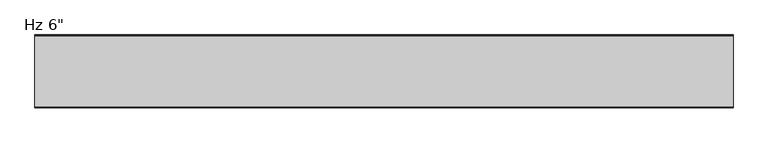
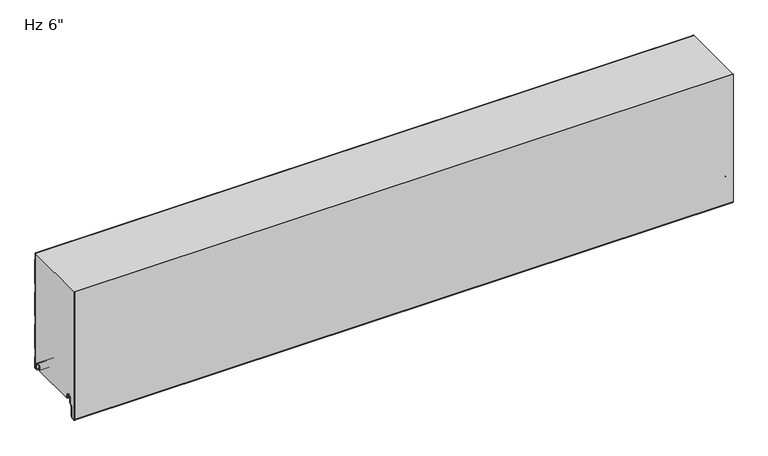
"""IFC4 building model written with IfcOpenShell, lengths in millimetres: plate geometry."""

from ifc_helpers import new_model, si_unit, point, frame, frame_2d, origin, place, context, project, spatial, polyline, circle_curve, trimmed, segment, composite_curve, outline, extrude, source, transform, mapped, element, save
from ifc_brep_helpers import plane_surface, cylinder_surface, revolved_surface, advanced_brep


def plate_a466234f(model_context):
    return source(origin(), model_context, "Body", "SolidModel", [
        advanced_brep(
        [(-730.0, -17.0015159, 2.0313088), (-730.0, -18.0015191, 1.0313116), (-730.0, -19.0015105, 2.0313088), (-730.0, -19.0015105, 6.0315125), (-730.0, -18.0015159, 6.0315125), (-730.0, -18.0015159, 8.7237223), (-730.0, -14.7015202, 12.023718), (-730.0, -10.301529, 12.023718), (-730.0, -7.0015335, 8.7237225), (-730.0, -7.0015335, -1.6962564), (-730.0, -5.2315393, -3.4662506), (-730.0, -0.9999916, -3.4662506), (-730.0, -0.9999916, 21.034026), (-730.0, -2.2002307, 22.4196686), (-730.0, -2.2002307, 41.7948349), (-730.0, -1.0, 43.1804679), (-730.0, -1.0, 97.2338833), (-730.0, -2.2002307, 98.6195162), (-730.0, -2.2002307, 117.9946825), (-730.0, -1.0, 119.3803155), (-730.0, -1.0, 173.4337309), (-730.0, -2.2002307, 174.8193638), (-730.0, -2.2002307, 194.1945301), (-730.0, -1.0, 195.5801631), (-730.0, -1.0, 249.6335785), (-730.0, -2.2002307, 251.0192114), (-730.0, -2.2002307, 266.4), (-730.0, -1.2002307, 266.4), (-730.0, -1.2002307, 251.3920919), (-730.0, -0.3417885, 250.4010442), (-730.0, 0.0, 249.4844273), (-730.0, 0.0, 195.7293142), (-730.0, -0.3417885, 194.8126973), (-730.0, -1.2002307, 193.8216497), (-730.0, -1.2002307, 175.1922443), (-730.0, -0.3417885, 174.2011966), (-730.0, 0.0, 173.2845797), (-730.0, 0.0, 119.5294666), (-730.0, -0.3417885, 118.6128497), (-730.0, -1.2002307, 117.6218021), (-730.0, -1.2002307, 98.9923967), (-730.0, -0.3417885, 98.001349), (-730.0, 0.0, 97.0847321), (-730.0, 0.0, 43.329619), (-730.0, -0.3417885, 42.4130021), (-730.0, -1.2002307, 41.4219545), (-730.0, -1.2002307, 22.7925491), (-730.0, -0.3417885, 21.8015014), (-730.0, 0.0, 20.8847931), (-730.0, 8.4e-06, -3.0662545), (-730.0, -1.3999878, -4.4662506), (-730.0, -5.2315393, -4.4662506), (-730.0, -8.0015335, -1.6962564), (-730.0, -8.0015335, 8.7237225), (-730.0, -10.301529, 11.023718), (-730.0, -14.7015202, 11.023718), (-730.0, -17.0015159, 8.7237223), (730.0, -17.0015159, 2.0313088), (730.0, -17.0015159, 8.7237223), (730.0, -14.7015202, 11.023718), (730.0, -10.301529, 11.023718), (730.0, -8.0015335, 8.7237225), (730.0, -8.0015335, -1.6962564), (730.0, -5.2315393, -4.4662506), (730.0, -1.3999878, -4.4662506), (730.0, 8.4e-06, -3.0662545), (730.0, 8.4e-06, 20.8848845), (730.0, -0.3417885, 21.8015014), (730.0, -1.2002307, 22.7925491), (730.0, -1.2002307, 41.4219545), (730.0, -0.3417885, 42.4130021), (730.0, 0.0, 43.329619), (730.0, 0.0, 97.0847321), (730.0, -0.3417885, 98.001349), (730.0, -1.2002307, 98.9923967), (730.0, -1.2002307, 117.6218021), (730.0, -0.3417885, 118.6128497), (730.0, 0.0, 119.5294666), (730.0, 0.0, 173.2845797), (730.0, -0.3417885, 174.2011966), (730.0, -1.2002307, 175.1922443), (730.0, -1.2002307, 193.8216497), (730.0, -0.3417885, 194.8126973), (730.0, 0.0, 195.7293142), (730.0, 0.0, 249.4844273), (730.0, -0.3417885, 250.4010442), (730.0, -1.2002307, 251.3920919), (730.0, -1.2002307, 266.4), (730.0, -2.2002307, 266.4), (730.0, -2.2002307, 251.0192114), (730.0, -1.0, 249.6335785), (730.0, -1.0, 195.5801631), (730.0, -2.2002307, 194.1945301), (730.0, -2.2002307, 174.8193638), (730.0, -1.0, 173.4337309), (730.0, -1.0, 119.3803155), (730.0, -2.2002307, 117.9946825), (730.0, -2.2002307, 98.6195162), (730.0, -1.0, 97.2338833), (730.0, -1.0, 43.1804679), (730.0, -2.2002307, 41.7948349), (730.0, -2.2002307, 22.4196686), (730.0, -0.9999916, 21.034026), (730.0, -0.9999916, -3.4662506), (730.0, -5.2315393, -3.4662506), (730.0, -7.0015335, -1.6962564), (730.0, -7.0015335, 8.7237225), (730.0, -10.301529, 12.023718), (730.0, -14.7015202, 12.023718), (730.0, -18.0015159, 8.7237223), (730.0, -18.0015159, 6.0315125), (730.0, -19.0015105, 6.0315125), (730.0, -19.0015105, 2.0313088), (730.0, -18.0015192, 1.0313116)],
        [
            (0, 1, circle_curve(frame((-730.0, -18.0015132, 2.0313088), z_axis=(-1.0, 0.0, 0.0), x_axis=(0.0, 0.0, 1.0)), 0.9999973)),
            (1, 2, circle_curve(frame((-730.0, -18.0015133, 2.0313088), z_axis=(-1.0, 0.0, 0.0), x_axis=(0.0, 0.0, 1.0)), 0.9999972)),
            (2, 3),
            (3, 4),
            (4, 5),
            (5, 6, circle_curve(frame((-730.0, -14.7015202, 8.7237223), z_axis=(-1.0, 0.0, 0.0), x_axis=(0.0, 0.0, 1.0)), 3.2999957)),
            (6, 7),
            (7, 8, circle_curve(frame((-730.0, -10.301529, 8.7237225), z_axis=(-1.0, 0.0, 0.0), x_axis=(0.0, 0.0, 1.0)), 3.2999955)),
            (8, 9),
            (9, 10, circle_curve(frame((-730.0, -5.2315393, -1.6962564), z_axis=(1.0, 0.0, 0.0), x_axis=(0.0, 0.0, 1.0)), 1.7699942)),
            (10, 11),
            (11, 12),
            (12, 13),
            (13, 14),
            (14, 15),
            (15, 16),
            (16, 17),
            (17, 18),
            (18, 19),
            (19, 20),
            (20, 21),
            (21, 22),
            (22, 23),
            (23, 24),
            (24, 25),
            (25, 26),
            (26, 27),
            (27, 28),
            (28, 29),
            (29, 30, circle_curve(frame((-730.0, -1.3999972, 249.4844273), z_axis=(-1.0, 0.0, 0.0), x_axis=(0.0, 0.0, 1.0)), 1.3999972)),
            (30, 31),
            (31, 32, circle_curve(frame((-730.0, -1.3999972, 195.7293142), z_axis=(-1.0, 0.0, 0.0), x_axis=(0.0, 0.0, 1.0)), 1.3999972)),
            (32, 33),
            (33, 34),
            (34, 35),
            (35, 36, circle_curve(frame((-730.0, -1.3999972, 173.2845797), z_axis=(-1.0, 0.0, 0.0), x_axis=(0.0, 0.0, 1.0)), 1.3999972)),
            (36, 37),
            (37, 38, circle_curve(frame((-730.0, -1.3999972, 119.5294666), z_axis=(-1.0, 0.0, 0.0), x_axis=(0.0, 0.0, 1.0)), 1.3999972)),
            (38, 39),
            (39, 40),
            (40, 41),
            (41, 42, circle_curve(frame((-730.0, -1.3999972, 97.0847321), z_axis=(-1.0, 0.0, 0.0), x_axis=(0.0, 0.0, 1.0)), 1.3999972)),
            (42, 43),
            (43, 44, circle_curve(frame((-730.0, -1.3999972, 43.329619), z_axis=(-1.0, 0.0, 0.0), x_axis=(0.0, 0.0, 1.0)), 1.3999972)),
            (44, 45),
            (45, 46),
            (46, 47),
            (47, 48, circle_curve(frame((-730.0, -1.3999972, 20.8848845), z_axis=(-1.0, 0.0, 0.0), x_axis=(0.0, 0.0, 1.0)), 1.3999972)),
            (48, 49),
            (49, 50, circle_curve(frame((-730.0, -1.3999878, -3.0662545), z_axis=(-1.0, 0.0, 0.0), x_axis=(0.0, 0.0, 1.0)), 1.3999962)),
            (50, 51),
            (51, 52, circle_curve(frame((-730.0, -5.2315393, -1.6962564), z_axis=(-1.0, 0.0, 0.0), x_axis=(0.0, 0.0, 1.0)), 2.7699942)),
            (52, 53),
            (53, 54, circle_curve(frame((-730.0, -10.301529, 8.7237225), z_axis=(1.0, 0.0, 0.0), x_axis=(0.0, 0.0, 1.0)), 2.2999955)),
            (54, 55),
            (55, 56, circle_curve(frame((-730.0, -14.7015202, 8.7237223), z_axis=(1.0, 0.0, 0.0), x_axis=(0.0, 0.0, 1.0)), 2.2999957)),
            (56, 0),
            (57, 58),
            (58, 59, circle_curve(frame((730.0, -14.7015202, 8.7237223), z_axis=(-1.0, 0.0, 0.0), x_axis=(0.0, 0.0, 1.0)), 2.2999957)),
            (59, 60),
            (60, 61, circle_curve(frame((730.0, -10.301529, 8.7237225), z_axis=(-1.0, 0.0, 0.0), x_axis=(0.0, 0.0, 1.0)), 2.2999955)),
            (61, 62),
            (62, 63, circle_curve(frame((730.0, -5.2315393, -1.6962564), z_axis=(1.0, 0.0, 0.0), x_axis=(0.0, 0.0, 1.0)), 2.7699942)),
            (63, 64),
            (64, 65, circle_curve(frame((730.0, -1.3999878, -3.0662545), z_axis=(1.0, 0.0, 0.0), x_axis=(0.0, 0.0, 1.0)), 1.3999962)),
            (65, 66),
            (66, 67, circle_curve(frame((730.0, -1.3999972, 20.8848845), z_axis=(1.0, 0.0, 0.0), x_axis=(0.0, 0.0, 1.0)), 1.3999972)),
            (67, 68),
            (68, 69),
            (69, 70),
            (70, 71, circle_curve(frame((730.0, -1.3999972, 43.329619), z_axis=(1.0, 0.0, 0.0), x_axis=(0.0, 0.0, 1.0)), 1.3999972)),
            (71, 72),
            (72, 73, circle_curve(frame((730.0, -1.3999972, 97.0847321), z_axis=(1.0, 0.0, 0.0), x_axis=(0.0, 0.0, 1.0)), 1.3999972)),
            (73, 74),
            (74, 75),
            (75, 76),
            (76, 77, circle_curve(frame((730.0, -1.3999972, 119.5294666), z_axis=(1.0, 0.0, 0.0), x_axis=(0.0, 0.0, 1.0)), 1.3999972)),
            (77, 78),
            (78, 79, circle_curve(frame((730.0, -1.3999972, 173.2845797), z_axis=(1.0, 0.0, 0.0), x_axis=(0.0, 0.0, 1.0)), 1.3999972)),
            (79, 80),
            (80, 81),
            (81, 82),
            (82, 83, circle_curve(frame((730.0, -1.3999972, 195.7293142), z_axis=(1.0, 0.0, 0.0), x_axis=(0.0, 0.0, 1.0)), 1.3999972)),
            (83, 84),
            (84, 85, circle_curve(frame((730.0, -1.3999972, 249.4844273), z_axis=(1.0, 0.0, 0.0), x_axis=(0.0, 0.0, 1.0)), 1.3999972)),
            (85, 86),
            (86, 87),
            (87, 88),
            (88, 89),
            (89, 90),
            (90, 91),
            (91, 92),
            (92, 93),
            (93, 94),
            (94, 95),
            (95, 96),
            (96, 97),
            (97, 98),
            (98, 99),
            (99, 100),
            (100, 101),
            (101, 102),
            (102, 103),
            (103, 104),
            (104, 105, circle_curve(frame((730.0, -5.2315393, -1.6962564), z_axis=(-1.0, 0.0, 0.0), x_axis=(0.0, 0.0, 1.0)), 1.7699942)),
            (105, 106),
            (106, 107, circle_curve(frame((730.0, -10.301529, 8.7237225), z_axis=(1.0, 0.0, 0.0), x_axis=(0.0, 0.0, 1.0)), 3.2999955)),
            (107, 108),
            (108, 109, circle_curve(frame((730.0, -14.7015202, 8.7237223), z_axis=(1.0, 0.0, 0.0), x_axis=(0.0, 0.0, 1.0)), 3.2999957)),
            (109, 110),
            (110, 111),
            (111, 112),
            (112, 113, circle_curve(frame((730.0, -18.0015133, 2.0313088), z_axis=(1.0, 0.0, 0.0), x_axis=(0.0, 0.0, 1.0)), 0.9999972)),
            (113, 57, circle_curve(frame((730.0, -18.0015132, 2.0313088), z_axis=(1.0, 0.0, 0.0), x_axis=(0.0, 0.0, 1.0)), 0.9999973)),
            (26, 88),
            (87, 27),
            (56, 58),
            (57, 0),
            (55, 59),
            (54, 60),
            (53, 61),
            (52, 62),
            (51, 63),
            (50, 64),
            (49, 65),
            (48, 66),
            (47, 67),
            (46, 68),
            (45, 69),
            (44, 70),
            (43, 71),
            (42, 72),
            (41, 73),
            (40, 74),
            (39, 75),
            (38, 76),
            (37, 77),
            (36, 78),
            (19, 95),
            (94, 20),
            (18, 96),
            (17, 97),
            (16, 98),
            (15, 99),
            (14, 100),
            (13, 101),
            (12, 102),
            (11, 103),
            (10, 104),
            (9, 105),
            (8, 106),
            (7, 107),
            (6, 108),
            (5, 109),
            (4, 110),
            (3, 111),
            (2, 112),
            (1, 113),
            (35, 79),
            (34, 80),
            (33, 81),
            (32, 82),
            (31, 83),
            (30, 84),
            (29, 85),
            (28, 86),
            (25, 89),
            (24, 90),
            (23, 91),
            (22, 92),
            (21, 93),
        ],
        [
            plane_surface(frame((-730.0, 0.0, 533.4), z_axis=(-1.0, 0.0, 0.0), x_axis=(0.0, 1.0, 0.0))),
            plane_surface(frame((730.0, 0.0, 533.4), z_axis=(1.0, 0.0, 0.0), x_axis=(0.0, 1.0, 0.0))),
            plane_surface(frame((730.0, 10.0, 266.4), z_axis=(0.0, 0.0, 1.0), x_axis=(-1.0, 0.0, 0.0))),
            plane_surface(frame((-730.0, -17.0015159, 2.0313088), z_axis=(0.0, 1.0, 0.0), x_axis=(1.0, 0.0, 0.0))),
            revolved_surface(polyline([(730.0, -14.7015202, 11.023718), (-730.0, -14.7015202, 11.023718)]), (-730.0, -14.7015202, 8.7237223), (1.0, 0.0, 0.0)),
            plane_surface(frame((-730.0, -14.7015202, 11.023718), z_axis=(0.0, 0.0, -1.0), x_axis=(1.0, 0.0, 0.0))),
            revolved_surface(polyline([(730.0, -10.301529, 11.023717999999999), (-730.0, -10.301529, 11.023717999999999)]), (-730.0, -10.301529, 8.7237225), (1.0, 0.0, 0.0)),
            plane_surface(frame((-730.0, -8.0015335, 8.7237225), z_axis=(0.0, -1.0, 0.0), x_axis=(1.0, 0.0, 0.0))),
            cylinder_surface(frame((-730.0, -5.2315393, -1.6962564), z_axis=(-1.0, 0.0, 0.0), x_axis=(0.0, 0.0, 1.0)), 2.7699942),
            plane_surface(frame((-730.0, -5.2315393, -4.4662506), z_axis=(0.0, 0.0, -1.0), x_axis=(1.0, 0.0, 0.0))),
            cylinder_surface(frame((-730.0, -1.3999878, -3.0662545), z_axis=(-1.0, 0.0, 0.0), x_axis=(0.0, 0.0, 1.0)), 1.3999962),
            plane_surface(frame((-730.0, 8.4e-06, -3.0662545), z_axis=(0.0, 1.0, 0.0), x_axis=(1.0, 0.0, 0.0))),
            cylinder_surface(frame((-730.0, -1.3999972, 20.8848845), z_axis=(-1.0, 0.0, 0.0), x_axis=(0.0, 0.0, 1.0)), 1.3999972),
            plane_surface(frame((-730.0, -0.3417885, 21.8015014), z_axis=(0.0, 0.755864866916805, 0.6547276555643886), x_axis=(1.0, 0.0, 0.0))),
            plane_surface(frame((-730.0, -1.2002307, 32.1072518), z_axis=(0.0, 1.0, 0.0), x_axis=(1.0, 0.0, 0.0))),
            plane_surface(frame((-730.0, -1.2002307, 41.4219545), z_axis=(0.0, 0.755864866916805, -0.6547276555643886), x_axis=(1.0, 0.0, 0.0))),
            cylinder_surface(frame((-730.0, -1.3999972, 43.329619), z_axis=(-1.0, 0.0, 0.0), x_axis=(0.0, 0.0, 1.0)), 1.3999972),
            plane_surface(frame((-730.0, 0.0, 43.329619), z_axis=(0.0, 1.0, 0.0), x_axis=(1.0, 0.0, 0.0))),
            cylinder_surface(frame((-730.0, -1.3999972, 97.0847321), z_axis=(-1.0, 0.0, 0.0), x_axis=(0.0, 0.0, 1.0)), 1.3999972),
            plane_surface(frame((-730.0, -0.3417885, 98.001349), z_axis=(0.0, 0.755864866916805, 0.6547276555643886), x_axis=(1.0, 0.0, 0.0))),
            plane_surface(frame((-730.0, -1.2002307, 108.3070994), z_axis=(0.0, 1.0, 0.0), x_axis=(1.0, 0.0, 0.0))),
            plane_surface(frame((-730.0, -1.2002307, 117.6218021), z_axis=(0.0, 0.755864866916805, -0.6547276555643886), x_axis=(1.0, 0.0, 0.0))),
            cylinder_surface(frame((-730.0, -1.3999972, 119.5294666), z_axis=(-1.0, 0.0, 0.0), x_axis=(0.0, 0.0, 1.0)), 1.3999972),
            plane_surface(frame((-730.0, 0.0, 119.5294666), z_axis=(0.0, 1.0, 0.0), x_axis=(1.0, 0.0, 0.0))),
            plane_surface(frame((-730.0, -1.0, 173.4337309), z_axis=(0.0, -1.0, 0.0), x_axis=(1.0, 0.0, 0.0))),
            plane_surface(frame((-730.0, -1.0, 119.3803155), z_axis=(0.0, -0.755864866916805, 0.6547276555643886), x_axis=(1.0, 0.0, 0.0))),
            plane_surface(frame((-730.0, -2.2002307, 117.9946825), z_axis=(0.0, -1.0, 0.0), x_axis=(1.0, 0.0, 0.0))),
            plane_surface(frame((-730.0, -2.2002307, 98.6195162), z_axis=(0.0, -0.755864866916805, -0.6547276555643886), x_axis=(1.0, 0.0, 0.0))),
            plane_surface(frame((-730.0, -1.0, 97.2338833), z_axis=(0.0, -1.0, 0.0), x_axis=(1.0, 0.0, 0.0))),
            plane_surface(frame((-730.0, -1.0, 43.1804679), z_axis=(0.0, -0.755864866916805, 0.6547276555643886), x_axis=(1.0, 0.0, 0.0))),
            plane_surface(frame((-730.0, -2.2002307, 41.7948349), z_axis=(0.0, -1.0, 0.0), x_axis=(1.0, 0.0, 0.0))),
            plane_surface(frame((-730.0, -2.2002307, 22.4196686), z_axis=(0.0, -0.755864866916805, -0.6547276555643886), x_axis=(1.0, 0.0, 0.0))),
            plane_surface(frame((-730.0, -0.9999916, 21.034026), z_axis=(0.0, -1.0, 0.0), x_axis=(1.0, 0.0, 0.0))),
            plane_surface(frame((-730.0, -0.9999916, -3.4662506), z_axis=(0.0, 0.0, 1.0), x_axis=(1.0, 0.0, 0.0))),
            revolved_surface(polyline([(730.0, -5.2315393, 0.07373779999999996), (-730.0, -5.2315393, 0.07373779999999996)]), (-730.0, -5.2315393, -1.6962564), (1.0, 0.0, 0.0)),
            plane_surface(frame((-730.0, -7.0015335, -1.6962564), z_axis=(0.0, 1.0, 0.0), x_axis=(1.0, 0.0, 0.0))),
            cylinder_surface(frame((-730.0, -10.301529, 8.7237225), z_axis=(-1.0, 0.0, 0.0), x_axis=(0.0, 0.0, 1.0)), 3.2999955),
            plane_surface(frame((-730.0, -10.301529, 12.023718), z_axis=(0.0, 0.0, 1.0), x_axis=(1.0, 0.0, 0.0))),
            cylinder_surface(frame((-730.0, -14.7015202, 8.7237223), z_axis=(-1.0, 0.0, 0.0), x_axis=(0.0, 0.0, 1.0)), 3.2999957),
            plane_surface(frame((-730.0, -18.0015159, 8.7237223), z_axis=(0.0, -1.0, 0.0), x_axis=(1.0, 0.0, 0.0))),
            plane_surface(frame((-730.0, -18.0015159, 6.0315125), z_axis=(0.0, 0.0, 1.0), x_axis=(1.0, 0.0, 0.0))),
            plane_surface(frame((-730.0, -19.0015105, 6.0315125), z_axis=(0.0, -1.0, 0.0), x_axis=(1.0, 0.0, 0.0))),
            cylinder_surface(frame((-730.0, -18.0015133, 2.0313088), z_axis=(-1.0, 0.0, 0.0), x_axis=(0.0, 0.0, 1.0)), 0.9999972),
            cylinder_surface(frame((-730.0, -18.0015132, 2.0313088), z_axis=(-1.0, 0.0, 0.0), x_axis=(0.0, 0.0, 1.0)), 0.9999973),
            cylinder_surface(frame((-730.0, -1.3999972, 173.2845797), z_axis=(-1.0, 0.0, 0.0), x_axis=(0.0, 0.0, 1.0)), 1.3999972),
            plane_surface(frame((-730.0, -0.3417885, 174.2011966), z_axis=(0.0, 0.755864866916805, 0.6547276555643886), x_axis=(1.0, 0.0, 0.0))),
            plane_surface(frame((-730.0, -1.2002307, 184.506947), z_axis=(0.0, 1.0, 0.0), x_axis=(1.0, 0.0, 0.0))),
            plane_surface(frame((-730.0, -1.2002307, 193.8216497), z_axis=(0.0, 0.755864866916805, -0.6547276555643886), x_axis=(1.0, 0.0, 0.0))),
            cylinder_surface(frame((-730.0, -1.3999972, 195.7293142), z_axis=(-1.0, 0.0, 0.0), x_axis=(0.0, 0.0, 1.0)), 1.3999972),
            plane_surface(frame((-730.0, 0.0, 195.7293142), z_axis=(0.0, 1.0, 0.0), x_axis=(1.0, 0.0, 0.0))),
            cylinder_surface(frame((-730.0, -1.3999972, 249.4844273), z_axis=(-1.0, 0.0, 0.0), x_axis=(0.0, 0.0, 1.0)), 1.3999972),
            plane_surface(frame((-730.0, -0.3417885, 250.4010442), z_axis=(0.0, 0.755864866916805, 0.6547276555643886), x_axis=(1.0, 0.0, 0.0))),
            plane_surface(frame((-730.0, -1.2002307, 260.7067946), z_axis=(0.0, 1.0, 0.0), x_axis=(1.0, 0.0, 0.0))),
            plane_surface(frame((-730.0, -2.2002307, 270.3943777), z_axis=(0.0, -1.0, 0.0), x_axis=(1.0, 0.0, 0.0))),
            plane_surface(frame((-730.0, -2.2002307, 251.0192114), z_axis=(0.0, -0.755864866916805, -0.6547276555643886), x_axis=(1.0, 0.0, 0.0))),
            plane_surface(frame((-730.0, -1.0, 249.6335785), z_axis=(0.0, -1.0, 0.0), x_axis=(1.0, 0.0, 0.0))),
            plane_surface(frame((-730.0, -1.0, 195.5801631), z_axis=(0.0, -0.755864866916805, 0.6547276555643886), x_axis=(1.0, 0.0, 0.0))),
            plane_surface(frame((-730.0, -2.2002307, 194.1945301), z_axis=(0.0, -1.0, 0.0), x_axis=(1.0, 0.0, 0.0))),
            plane_surface(frame((-730.0, -2.2002307, 174.8193638), z_axis=(0.0, -0.755864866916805, -0.6547276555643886), x_axis=(1.0, 0.0, 0.0))),
        ],
        [
            (0, [[1, 2, 3, 4, 5, 6, 7, 8, 9, 10, 11, 12, 13, 14, 15, 16, 17, 18, 19, 20, 21, 22, 23, 24, 25, 26, 27, 28, 29, 30, 31, 32, 33, 34, 35, 36, 37, 38, 39, 40, 41, 42, 43, 44, 45, 46, 47, 48, 49, 50, 51, 52, 53, 54, 55, 56, 57]]),
            (1, [[58, 59, 60, 61, 62, 63, 64, 65, 66, 67, 68, 69, 70, 71, 72, 73, 74, 75, 76, 77, 78, 79, 80, 81, 82, 83, 84, 85, 86, 87, 88, 89, 90, 91, 92, 93, 94, 95, 96, 97, 98, 99, 100, 101, 102, 103, 104, 105, 106, 107, 108, 109, 110, 111, 112, 113, 114]]),
            (2, [[115, -88, 116, -27]]),
            (3, [[117, -58, 118, -57]]),
            (4, [[119, -59, -117, -56]]),
            (5, [[120, -60, -119, -55]]),
            (6, [[121, -61, -120, -54]]),
            (7, [[122, -62, -121, -53]]),
            (8, [[123, -63, -122, -52]]),
            (9, [[124, -64, -123, -51]]),
            (10, [[125, -65, -124, -50]]),
            (11, [[126, -66, -125, -49]]),
            (12, [[127, -67, -126, -48]]),
            (13, [[128, -68, -127, -47]]),
            (14, [[129, -69, -128, -46]]),
            (15, [[130, -70, -129, -45]]),
            (16, [[131, -71, -130, -44]]),
            (17, [[132, -72, -131, -43]]),
            (18, [[133, -73, -132, -42]]),
            (19, [[134, -74, -133, -41]]),
            (20, [[135, -75, -134, -40]]),
            (21, [[136, -76, -135, -39]]),
            (22, [[137, -77, -136, -38]]),
            (23, [[138, -78, -137, -37]]),
            (24, [[139, -95, 140, -20]]),
            (25, [[141, -96, -139, -19]]),
            (26, [[142, -97, -141, -18]]),
            (27, [[143, -98, -142, -17]]),
            (28, [[144, -99, -143, -16]]),
            (29, [[145, -100, -144, -15]]),
            (30, [[146, -101, -145, -14]]),
            (31, [[147, -102, -146, -13]]),
            (32, [[148, -103, -147, -12]]),
            (33, [[149, -104, -148, -11]]),
            (34, [[150, -105, -149, -10]]),
            (35, [[151, -106, -150, -9]]),
            (36, [[152, -107, -151, -8]]),
            (37, [[153, -108, -152, -7]]),
            (38, [[154, -109, -153, -6]]),
            (39, [[155, -110, -154, -5]]),
            (40, [[156, -111, -155, -4]]),
            (41, [[157, -112, -156, -3]]),
            (42, [[158, -113, -157, -2]]),
            (43, [[-118, -114, -158, -1]]),
            (44, [[159, -79, -138, -36]]),
            (45, [[160, -80, -159, -35]]),
            (46, [[161, -81, -160, -34]]),
            (47, [[162, -82, -161, -33]]),
            (48, [[163, -83, -162, -32]]),
            (49, [[164, -84, -163, -31]]),
            (50, [[165, -85, -164, -30]]),
            (51, [[166, -86, -165, -29]]),
            (52, [[-28, -116, -87, -166]]),
            (53, [[-89, -115, -26, 167]]),
            (54, [[168, -90, -167, -25]]),
            (55, [[169, -91, -168, -24]]),
            (56, [[170, -92, -169, -23]]),
            (57, [[171, -93, -170, -22]]),
            (58, [[-140, -94, -171, -21]]),
        ],
    ),
        extrude(outline(composite_curve([segment(trimmed(circle_curve(frame_2d((-148.8297607, -32.4521176)), 3.5702393), [point((-148.5184903, -36.008762))], [point((-152.4, -32.4521176))], False, "CARTESIAN"), True, "CONTINUOUS"), segment(polyline([(-152.4, -32.4521176), (-152.4, 266.4), (-151.3993606, 266.4), (-151.3993606, -32.509446)]), True, "CONTINUOUS"), segment(trimmed(circle_curve(frame_2d((-148.8297607, -32.4521176)), 2.5702393), [point((-151.3993606, -32.509446))], [point((-148.6056751, -35.0125699))], True, "CARTESIAN"), True, "CONTINUOUS"), segment(polyline([(-148.6056751, -35.0125699), (-143.6238542, -34.5765709)]), True, "CONTINUOUS"), segment(trimmed(circle_curve(frame_2d((-144.1052448, -31.9198392)), 2.6999926), [point((-143.6238542, -34.5765709))], [point((-141.4052522, -31.9198392))], True, "CARTESIAN"), True, "CONTINUOUS"), segment(polyline([(-141.4052522, -31.9198392), (-141.4052522, -9.8247096), (-135.9031811, -4.3226385)]), True, "CONTINUOUS"), segment(trimmed(circle_curve(frame_2d((-137.1052588, -3.1205608)), 1.6999946), [point((-135.9031811, -4.3226385))], [point((-135.4052642, -3.1205608))], True, "CARTESIAN"), True, "CONTINUOUS"), segment(polyline([(-135.4052642, -3.1205608), (-135.4052642, 8.6903283)]), True, "CONTINUOUS"), segment(trimmed(circle_curve(frame_2d((-132.0552689, 8.6903283)), 3.3499953), [point((-135.4052642, 8.6903283))], [point((-132.0552689, 12.0403236))], False, "CARTESIAN"), True, "CONTINUOUS"), segment(polyline([(-132.0552689, 12.0403236), (-127.6552777, 12.0403236)]), True, "CONTINUOUS"), segment(trimmed(circle_curve(frame_2d((-127.6552777, 8.6903283)), 3.3499953), [point((-127.6552777, 12.0403236))], [point((-124.3052824, 8.6903283))], False, "CARTESIAN"), True, "CONTINUOUS"), segment(polyline([(-124.3052824, 8.6903283), (-124.3052824, 5.9912173), (-122.9068035, 5.9912173), (-122.9068035, 2.2328239)]), True, "CONTINUOUS"), segment(trimmed(circle_curve(frame_2d((-124.1068002, 2.2313092)), 1.1999976), [point((-122.9068035, 2.2328239))], [point((-124.0762782, 1.0316999))], False, "CARTESIAN"), True, "CONTINUOUS"), segment(trimmed(circle_curve(frame_2d((-124.1068002, 2.2313092)), 1.1999976), [point((-124.0762782, 1.0316999))], [point((-125.3052824, 2.1710221))], False, "CARTESIAN"), True, "CONTINUOUS"), segment(polyline([(-125.3052824, 2.1710221), (-125.3052824, 8.6903283)]), True, "CONTINUOUS"), segment(trimmed(circle_curve(frame_2d((-127.6552777, 8.6903283)), 2.3499953), [point((-125.3052824, 8.6903283))], [point((-127.6552777, 11.0403236))], True, "CARTESIAN"), True, "CONTINUOUS"), segment(polyline([(-127.6552777, 11.0403236), (-132.0552689, 11.0403236)]), True, "CONTINUOUS"), segment(trimmed(circle_curve(frame_2d((-132.0552689, 8.6903283)), 2.3499953), [point((-132.0552689, 11.0403236))], [point((-134.4052642, 8.6903283))], True, "CARTESIAN"), True, "CONTINUOUS"), segment(polyline([(-134.4052642, 8.6903283), (-134.4052642, -3.1205608)]), True, "CONTINUOUS"), segment(trimmed(circle_curve(frame_2d((-137.1052588, -3.1205608)), 2.6999946), [point((-134.4052642, -3.1205608))], [point((-135.1960743, -5.0297453))], False, "CARTESIAN"), True, "CONTINUOUS"), segment(polyline([(-135.1960743, -5.0297453), (-140.0244918, -9.8581627)]), True, "CONTINUOUS"), segment(trimmed(circle_curve(frame_2d((-139.1052548, -10.7773997)), 1.2999974), [point((-140.0244918, -9.8581627))], [point((-140.4052522, -10.7773997))], True, "CARTESIAN"), True, "CONTINUOUS"), segment(polyline([(-140.4052522, -10.7773997), (-140.4052522, -31.9198392)]), True, "CONTINUOUS"), segment(trimmed(circle_curve(frame_2d((-144.1052448, -31.9198392)), 3.6999926), [point((-140.4052522, -31.9198392))], [point((-143.4944437, -35.5690675))], False, "CARTESIAN"), True, "CONTINUOUS"), segment(polyline([(-143.4944437, -35.5690675), (-148.5184903, -36.008762)]), True, "CONTINUOUS")], self_intersect=False)), frame((-730.0, 0.0, 0.0), z_axis=(1.0, 0.0, 0.0), x_axis=(0.0, 1.0, 0.0)), (0.0, 0.0, 1.0), 1460.0),
        advanced_brep(
        [(-730.0, -124.070875, 1.0316999), (-730.0, -122.9014003, 2.2328239), (-730.0, -122.9014003, 5.9912173), (-730.0, -124.2998791, 5.9912173), (-730.0, -124.2998791, 8.6903283), (-730.0, -127.6498744, 12.0403236), (-730.0, -132.0498656, 12.0403236), (-730.0, -135.3998609, 8.6903283), (-730.0, -135.3998609, -3.1205608), (-730.0, -135.8977778, -4.3226385), (-730.0, -141.3998489, -9.8247096), (-730.0, -141.3998489, -31.9198392), (-730.0, -143.6184509, -34.5765709), (-730.0, -148.6002718, -35.0125699), (-730.0, -151.3945967, -32.4521176), (-730.0, -151.4, 266.4), (-730.0, -2.2002307, 266.4), (-730.0, -2.2002307, 251.0192115), (-730.0, -1.0, 249.6335785), (-730.0, -1.0, 195.5801631), (-730.0, -2.2002307, 194.1945302), (-730.0, -2.2002307, 174.8193639), (-730.0, -1.0, 173.4337309), (-730.0, -1.0, 119.3803155), (-730.0, -2.2002307, 117.9946826), (-730.0, -2.2002307, 98.6195163), (-730.0, -1.0, 97.2338833), (-730.0, -1.0, 43.1804679), (-730.0, -2.2002307, 41.794835), (-730.0, -2.2002307, 22.4196687), (-730.0, -0.9999916, 21.034026), (-730.0, -0.9999916, -3.4662506), (-730.0, -5.2315389, -3.4662506), (-730.0, -7.0015331, -1.6962564), (-730.0, -7.0015331, 8.7237222), (-730.0, -10.301529, 12.023718), (-730.0, -14.7015202, 12.023718), (-730.0, -18.0015159, 8.7237223), (-730.0, -18.0015159, 6.0315125), (-730.0, -19.0015105, 6.0315125), (-730.0, -19.0015105, 2.0313089), (-730.0, -18.0015192, 1.0313117), (-730.0, -19.0328308, 0.0), (-730.0, -123.0391751, 0.0), (730.0, -124.070875, 1.0316999), (730.0, -123.0391751, 0.0), (730.0, -19.0328308, 0.0), (730.0, -18.0015192, 1.0313117), (730.0, -19.0015105, 2.0313089), (730.0, -19.0015105, 6.0315125), (730.0, -18.0015159, 6.0315125), (730.0, -18.0015159, 8.7237223), (730.0, -14.7015202, 12.023718), (730.0, -10.301529, 12.023718), (730.0, -7.0015331, 8.7237222), (730.0, -7.0015331, -1.6962564), (730.0, -5.2315389, -3.4662506), (730.0, -0.9999916, -3.4662506), (730.0, -0.9999916, 21.034026), (730.0, -2.2002307, 22.4196687), (730.0, -2.2002307, 41.794835), (730.0, -1.0, 43.1804679), (730.0, -1.0, 97.2338833), (730.0, -2.2002307, 98.6195163), (730.0, -2.2002307, 117.9946826), (730.0, -1.0, 119.3803155), (730.0, -1.0, 173.4337309), (730.0, -2.2002307, 174.8193639), (730.0, -2.2002307, 194.1945302), (730.0, -1.0, 195.5801631), (730.0, -1.0, 249.6335785), (730.0, -2.2002307, 251.0192115), (730.0, -2.2002307, 266.4), (730.0, -151.4, 266.4), (730.0, -151.4, -32.4521176), (730.0, -148.6002718, -35.0125699), (730.0, -143.6184509, -34.5765709), (730.0, -141.3998489, -31.9198392), (730.0, -141.3998489, -9.8247096), (730.0, -135.8977778, -4.3226385), (730.0, -135.3998609, -3.1205608), (730.0, -135.3998609, 8.6903283), (730.0, -132.0498656, 12.0403236), (730.0, -127.6498744, 12.0403236), (730.0, -124.2998791, 8.6903283), (730.0, -124.2998791, 5.9912173), (730.0, -122.9014003, 5.9912173), (730.0, -122.9014003, 2.2328239)],
        [
            (0, 1, circle_curve(frame((-730.0, -124.1013969, 2.2313092), z_axis=(1.0, 0.0, 0.0), x_axis=(0.0, 0.0, -1.0)), 1.1999976)),
            (1, 2),
            (2, 3),
            (3, 4),
            (4, 5, circle_curve(frame((-730.0, -127.6498744, 8.6903283), z_axis=(1.0, 0.0, 0.0), x_axis=(0.0, 0.0, -1.0)), 3.3499953)),
            (5, 6),
            (6, 7, circle_curve(frame((-730.0, -132.0498656, 8.6903283), z_axis=(1.0, 0.0, 0.0), x_axis=(0.0, 0.0, -1.0)), 3.3499953)),
            (7, 8),
            (8, 9, circle_curve(frame((-730.0, -137.0998555, -3.1205608), z_axis=(-1.0, 0.0, 0.0), x_axis=(0.0, 0.0, -1.0)), 1.6999946)),
            (9, 10),
            (10, 11),
            (11, 12, circle_curve(frame((-730.0, -144.0998415, -31.9198392), z_axis=(-1.0, 0.0, 0.0), x_axis=(0.0, 0.0, -1.0)), 2.6999926)),
            (12, 13),
            (13, 14, circle_curve(frame((-730.0, -148.8243575, -32.4521176), z_axis=(-1.0, 0.0, 0.0), x_axis=(0.0, 0.0, -1.0)), 2.5702393)),
            (14, 15),
            (15, 16),
            (16, 17),
            (17, 18),
            (18, 19),
            (19, 20),
            (20, 21),
            (21, 22),
            (22, 23),
            (23, 24),
            (24, 25),
            (25, 26),
            (26, 27),
            (27, 28),
            (28, 29),
            (29, 30),
            (30, 31),
            (31, 32),
            (32, 33, circle_curve(frame((-730.0, -5.2315389, -1.6962564), z_axis=(-1.0, 0.0, 0.0), x_axis=(0.0, 0.0, -1.0)), 1.7699942)),
            (33, 34),
            (34, 35, circle_curve(frame((-730.0, -10.301529, 8.7237222), z_axis=(1.0, 0.0, 0.0), x_axis=(0.0, 0.0, -1.0)), 3.2999959)),
            (35, 36),
            (36, 37, circle_curve(frame((-730.0, -14.7015202, 8.7237223), z_axis=(1.0, 0.0, 0.0), x_axis=(0.0, 0.0, -1.0)), 3.2999957)),
            (37, 38),
            (38, 39),
            (39, 40),
            (40, 41, circle_curve(frame((-730.0, -18.0015133, 2.0313089), z_axis=(1.0, 0.0, 0.0), x_axis=(0.0, 0.0, -1.0)), 0.9999972)),
            (41, 42),
            (42, 43),
            (43, 0),
            (44, 45),
            (45, 46),
            (46, 47),
            (47, 48, circle_curve(frame((730.0, -18.0015133, 2.0313089), z_axis=(-1.0, 0.0, 0.0), x_axis=(0.0, 0.0, -1.0)), 0.9999972)),
            (48, 49),
            (49, 50),
            (50, 51),
            (51, 52, circle_curve(frame((730.0, -14.7015202, 8.7237223), z_axis=(-1.0, 0.0, 0.0), x_axis=(0.0, 0.0, -1.0)), 3.2999957)),
            (52, 53),
            (53, 54, circle_curve(frame((730.0, -10.301529, 8.7237222), z_axis=(-1.0, 0.0, 0.0), x_axis=(0.0, 0.0, -1.0)), 3.2999959)),
            (54, 55),
            (55, 56, circle_curve(frame((730.0, -5.2315389, -1.6962564), z_axis=(1.0, 0.0, 0.0), x_axis=(0.0, 0.0, -1.0)), 1.7699942)),
            (56, 57),
            (57, 58),
            (58, 59),
            (59, 60),
            (60, 61),
            (61, 62),
            (62, 63),
            (63, 64),
            (64, 65),
            (65, 66),
            (66, 67),
            (67, 68),
            (68, 69),
            (69, 70),
            (70, 71),
            (71, 72),
            (72, 73),
            (73, 74),
            (74, 75, circle_curve(frame((730.0, -148.8243575, -32.4521176), z_axis=(1.0, 0.0, 0.0), x_axis=(0.0, 0.0, -1.0)), 2.5702393)),
            (75, 76),
            (76, 77, circle_curve(frame((730.0, -144.0998415, -31.9198392), z_axis=(1.0, 0.0, 0.0), x_axis=(0.0, 0.0, -1.0)), 2.6999926)),
            (77, 78),
            (78, 79),
            (79, 80, circle_curve(frame((730.0, -137.0998555, -3.1205608), z_axis=(1.0, 0.0, 0.0), x_axis=(0.0, 0.0, -1.0)), 1.6999946)),
            (80, 81),
            (81, 82, circle_curve(frame((730.0, -132.0498656, 8.6903283), z_axis=(-1.0, 0.0, 0.0), x_axis=(0.0, 0.0, -1.0)), 3.3499953)),
            (82, 83),
            (83, 84, circle_curve(frame((730.0, -127.6498744, 8.6903283), z_axis=(-1.0, 0.0, 0.0), x_axis=(0.0, 0.0, -1.0)), 3.3499953)),
            (84, 85),
            (85, 86),
            (86, 87),
            (87, 44, circle_curve(frame((730.0, -124.1013969, 2.2313092), z_axis=(-1.0, 0.0, 0.0), x_axis=(0.0, 0.0, -1.0)), 1.1999976)),
            (43, 45),
            (44, 0),
            (42, 46),
            (73, 15),
            (14, 74),
            (13, 75),
            (12, 76),
            (11, 77),
            (10, 78),
            (9, 79),
            (8, 80),
            (7, 81),
            (6, 82),
            (5, 83),
            (4, 84),
            (3, 85),
            (2, 86),
            (1, 87),
            (72, 16),
            (41, 47),
            (40, 48),
            (39, 49),
            (38, 50),
            (37, 51),
            (36, 52),
            (35, 53),
            (34, 54),
            (33, 55),
            (32, 56),
            (31, 57),
            (30, 58),
            (29, 59),
            (28, 60),
            (27, 61),
            (26, 62),
            (25, 63),
            (24, 64),
            (23, 65),
            (22, 66),
            (21, 67),
            (20, 68),
            (19, 69),
            (18, 70),
            (17, 71),
        ],
        [
            plane_surface(frame((-730.0, -151.4, 533.4), z_axis=(-1.0, 0.0, 0.0), x_axis=(0.0, -1.0, 0.0))),
            plane_surface(frame((730.0, -151.4, 533.4), z_axis=(1.0, 0.0, 0.0), x_axis=(0.0, -1.0, 0.0))),
            plane_surface(frame((-730.0, -124.070875, 1.0316999), z_axis=(0.0, -0.7071067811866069, -0.7071067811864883), x_axis=(1.0, 0.0, 0.0))),
            plane_surface(frame((-730.0, -123.0391751, 0.0), z_axis=(0.0, 0.0, -1.0), x_axis=(1.0, 0.0, 0.0))),
            plane_surface(frame((-730.0, -151.4, 1024.665622), z_axis=(0.0, -1.0, 0.0), x_axis=(1.0, 0.0, 0.0))),
            cylinder_surface(frame((-730.0, -148.8243575, -32.4521176), z_axis=(-1.0, 0.0, 0.0), x_axis=(0.0, 0.0, -1.0)), 2.5702393),
            plane_surface(frame((-730.0, -148.6002718, -35.0125699), z_axis=(0.0, 0.08718474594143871, -0.9961921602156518), x_axis=(1.0, 0.0, 0.0))),
            cylinder_surface(frame((-730.0, -144.0998415, -31.9198392), z_axis=(-1.0, 0.0, 0.0), x_axis=(0.0, 0.0, -1.0)), 2.6999926),
            plane_surface(frame((-730.0, -141.3998489, -31.9198392), z_axis=(0.0, 1.0, 0.0), x_axis=(1.0, 0.0, 0.0))),
            plane_surface(frame((-730.0, -141.3998489, -9.8247096), z_axis=(0.0, 0.7071067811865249, -0.7071067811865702), x_axis=(1.0, 0.0, 0.0))),
            cylinder_surface(frame((-730.0, -137.0998555, -3.1205608), z_axis=(-1.0, 0.0, 0.0), x_axis=(0.0, 0.0, -1.0)), 1.6999946),
            plane_surface(frame((-730.0, -135.3998609, -3.1205608), z_axis=(0.0, 1.0, 0.0), x_axis=(1.0, 0.0, 0.0))),
            revolved_surface(polyline([(730.0, -132.0498656, 5.340332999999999), (-730.0, -132.0498656, 5.340332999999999)]), (-730.0, -132.0498656, 8.6903283), (1.0, 0.0, 0.0)),
            plane_surface(frame((-730.0, -132.0498656, 12.0403236), z_axis=(0.0, 0.0, -1.0), x_axis=(1.0, 0.0, 0.0))),
            revolved_surface(polyline([(730.0, -127.6498744, 5.340332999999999), (-730.0, -127.6498744, 5.340332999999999)]), (-730.0, -127.6498744, 8.6903283), (1.0, 0.0, 0.0)),
            plane_surface(frame((-730.0, -124.2998791, 8.6903283), z_axis=(0.0, -1.0, 0.0), x_axis=(1.0, 0.0, 0.0))),
            plane_surface(frame((-730.0, -124.2998791, 5.9912173), z_axis=(0.0, 0.0, -1.0), x_axis=(1.0, 0.0, 0.0))),
            plane_surface(frame((-730.0, -122.9014003, 5.9912173), z_axis=(0.0, -1.0, 0.0), x_axis=(1.0, 0.0, 0.0))),
            revolved_surface(polyline([(730.0, -124.1013969, 1.0313116), (-730.0, -124.1013969, 1.0313116)]), (-730.0, -124.1013969, 2.2313092), (1.0, 0.0, 0.0)),
            plane_surface(frame((730.0, 10.0, 266.4), z_axis=(0.0, 0.0, 1.0), x_axis=(-1.0, 0.0, 0.0))),
            plane_surface(frame((-730.0, -19.0328308, 0.0), z_axis=(0.0, 0.7071067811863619, -0.7071067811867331), x_axis=(1.0, 0.0, 0.0))),
            revolved_surface(polyline([(730.0, -18.0015133, 1.0313116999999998), (-730.0, -18.0015133, 1.0313116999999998)]), (-730.0, -18.0015133, 2.0313089), (1.0, 0.0, 0.0)),
            plane_surface(frame((-730.0, -19.0015105, 2.0313089), z_axis=(0.0, 1.0, 0.0), x_axis=(1.0, 0.0, 0.0))),
            plane_surface(frame((-730.0, -19.0015105, 6.0315125), z_axis=(0.0, 0.0, -1.0), x_axis=(1.0, 0.0, 0.0))),
            plane_surface(frame((-730.0, -18.0015159, 6.0315125), z_axis=(0.0, 1.0, 0.0), x_axis=(1.0, 0.0, 0.0))),
            revolved_surface(polyline([(730.0, -14.7015202, 5.4237266), (-730.0, -14.7015202, 5.4237266)]), (-730.0, -14.7015202, 8.7237223), (1.0, 0.0, 0.0)),
            plane_surface(frame((-730.0, -14.7015202, 12.023718), z_axis=(0.0, 0.0, -1.0), x_axis=(1.0, 0.0, 0.0))),
            revolved_surface(polyline([(730.0, -10.301529, 5.423726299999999), (-730.0, -10.301529, 5.423726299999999)]), (-730.0, -10.301529, 8.7237222), (1.0, 0.0, 0.0)),
            plane_surface(frame((-730.0, -7.0015331, 8.7237222), z_axis=(0.0, -1.0, 0.0), x_axis=(1.0, 0.0, 0.0))),
            cylinder_surface(frame((-730.0, -5.2315389, -1.6962564), z_axis=(-1.0, 0.0, 0.0), x_axis=(0.0, 0.0, -1.0)), 1.7699942),
            plane_surface(frame((-730.0, -5.2315389, -3.4662506), z_axis=(0.0, 0.0, -1.0), x_axis=(1.0, 0.0, 0.0))),
            plane_surface(frame((-730.0, -0.9999916, -3.4662506), z_axis=(0.0, 1.0, 0.0), x_axis=(1.0, 0.0, 0.0))),
            plane_surface(frame((-730.0, -0.9999916, 21.034026), z_axis=(0.0, 0.7558648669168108, 0.6547276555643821), x_axis=(1.0, 0.0, 0.0))),
            plane_surface(frame((-730.0, -2.2002307, 22.4196687), z_axis=(0.0, 1.0, 0.0), x_axis=(1.0, 0.0, 0.0))),
            plane_surface(frame((-730.0, -2.2002307, 41.794835), z_axis=(0.0, 0.7558648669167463, -0.6547276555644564), x_axis=(1.0, 0.0, 0.0))),
            plane_surface(frame((-730.0, -1.0, 43.1804679), z_axis=(0.0, 1.0, 0.0), x_axis=(1.0, 0.0, 0.0))),
            plane_surface(frame((-730.0, -1.0, 97.2338833), z_axis=(0.0, 0.7558648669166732, 0.6547276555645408), x_axis=(1.0, 0.0, 0.0))),
            plane_surface(frame((-730.0, -2.2002307, 98.6195163), z_axis=(0.0, 1.0, 0.0), x_axis=(1.0, 0.0, 0.0))),
            plane_surface(frame((-730.0, -2.2002307, 117.9946826), z_axis=(0.0, 0.7558648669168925, -0.6547276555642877), x_axis=(1.0, 0.0, 0.0))),
            plane_surface(frame((-730.0, -1.0, 119.3803155), z_axis=(0.0, 1.0, 0.0), x_axis=(1.0, 0.0, 0.0))),
            plane_surface(frame((-730.0, -1.0, 173.4337309), z_axis=(0.0, 0.7558648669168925, 0.6547276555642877), x_axis=(1.0, 0.0, 0.0))),
            plane_surface(frame((-730.0, -2.2002307, 174.8193639), z_axis=(0.0, 1.0, 0.0), x_axis=(1.0, 0.0, 0.0))),
            plane_surface(frame((-730.0, -2.2002307, 194.1945302), z_axis=(0.0, 0.7558648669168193, -0.6547276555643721), x_axis=(1.0, 0.0, 0.0))),
            plane_surface(frame((-730.0, -1.0, 195.5801631), z_axis=(0.0, 1.0, 0.0), x_axis=(1.0, 0.0, 0.0))),
            plane_surface(frame((-730.0, -1.0, 249.6335785), z_axis=(0.0, 0.7558648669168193, 0.6547276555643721), x_axis=(1.0, 0.0, 0.0))),
            plane_surface(frame((-730.0, -2.2002307, 251.0192115), z_axis=(0.0, 1.0, 0.0), x_axis=(1.0, 0.0, 0.0))),
        ],
        [
            (0, [[1, 2, 3, 4, 5, 6, 7, 8, 9, 10, 11, 12, 13, 14, 15, 16, 17, 18, 19, 20, 21, 22, 23, 24, 25, 26, 27, 28, 29, 30, 31, 32, 33, 34, 35, 36, 37, 38, 39, 40, 41, 42, 43, 44]]),
            (1, [[45, 46, 47, 48, 49, 50, 51, 52, 53, 54, 55, 56, 57, 58, 59, 60, 61, 62, 63, 64, 65, 66, 67, 68, 69, 70, 71, 72, 73, 74, 75, 76, 77, 78, 79, 80, 81, 82, 83, 84, 85, 86, 87, 88]]),
            (2, [[89, -45, 90, -44]]),
            (3, [[-43, 91, -46, -89]]),
            (4, [[-74, 92, -15, 93]]),
            (5, [[94, -75, -93, -14]]),
            (6, [[95, -76, -94, -13]]),
            (7, [[96, -77, -95, -12]]),
            (8, [[97, -78, -96, -11]]),
            (9, [[98, -79, -97, -10]]),
            (10, [[99, -80, -98, -9]]),
            (11, [[100, -81, -99, -8]]),
            (12, [[101, -82, -100, -7]]),
            (13, [[102, -83, -101, -6]]),
            (14, [[103, -84, -102, -5]]),
            (15, [[104, -85, -103, -4]]),
            (16, [[105, -86, -104, -3]]),
            (17, [[106, -87, -105, -2]]),
            (18, [[-90, -88, -106, -1]]),
            (19, [[-92, -73, 107, -16]]),
            (20, [[108, -47, -91, -42]]),
            (21, [[109, -48, -108, -41]]),
            (22, [[110, -49, -109, -40]]),
            (23, [[111, -50, -110, -39]]),
            (24, [[112, -51, -111, -38]]),
            (25, [[113, -52, -112, -37]]),
            (26, [[114, -53, -113, -36]]),
            (27, [[115, -54, -114, -35]]),
            (28, [[116, -55, -115, -34]]),
            (29, [[117, -56, -116, -33]]),
            (30, [[118, -57, -117, -32]]),
            (31, [[119, -58, -118, -31]]),
            (32, [[120, -59, -119, -30]]),
            (33, [[121, -60, -120, -29]]),
            (34, [[122, -61, -121, -28]]),
            (35, [[123, -62, -122, -27]]),
            (36, [[124, -63, -123, -26]]),
            (37, [[125, -64, -124, -25]]),
            (38, [[126, -65, -125, -24]]),
            (39, [[127, -66, -126, -23]]),
            (40, [[128, -67, -127, -22]]),
            (41, [[129, -68, -128, -21]]),
            (42, [[130, -69, -129, -20]]),
            (43, [[131, -70, -130, -19]]),
            (44, [[132, -71, -131, -18]]),
            (45, [[-17, -107, -72, -132]]),
        ],
    ),
    ])


if __name__ == "__main__":
    model = new_model("IFC4")
    model_context = context("Model", 3, world=origin())
    ifc_project = project(units=[si_unit("LENGTHUNIT", "METRE", prefix="MILLI")], contexts=[model_context])
    site = spatial("IfcSite", under=ifc_project)
    building = spatial("IfcBuilding", under=site)
    placement = place(None, origin())
    plate_shape = plate_a466234f(model_context)
    element("IfcPlate", 1, ObjectType="KIP-42-S-O-KP-R19-CP-Hz-FL_SL : Hz 6\"", at=placement, inside=building, context=model_context, shape_type="MappedRepresentation", body=[
        mapped(plate_shape, transform((0.0, 0.0, 0.0), x_axis=(1.0, 0.0, 0.0), y_axis=(0.0, 1.0, 0.0), z_axis=(0.0, 0.0, 1.0))),
    ])
    save(model, "model.ifc")
